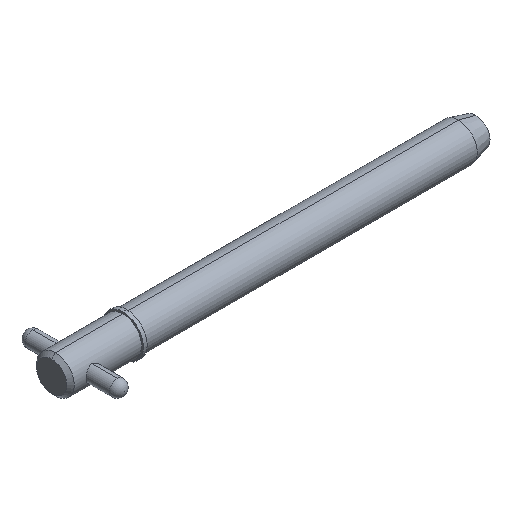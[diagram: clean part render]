
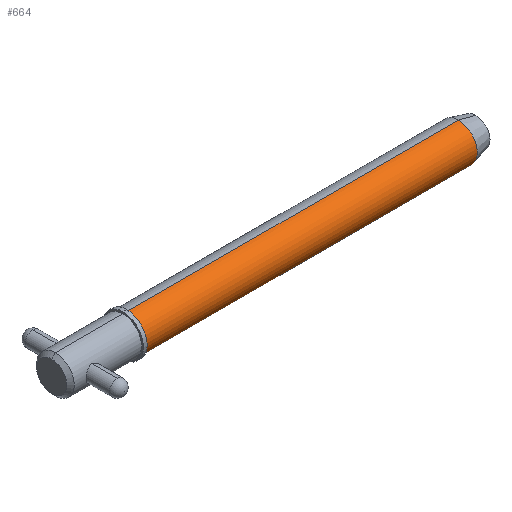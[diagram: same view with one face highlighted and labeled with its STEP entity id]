
A CAD part, isometric view. The second image highlights one B-rep face of the part: STEP entity #664.
In plain terms, the highlighted cylindrical face has radius 4.765 mm (diameter 9.53 mm), a partial arc.
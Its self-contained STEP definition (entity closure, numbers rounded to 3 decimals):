
#1 = AXIS2_PLACEMENT_3D ( 'NONE', #614, #292, #217 ) ;
#21 = AXIS2_PLACEMENT_3D ( 'NONE', #272, #674, #201 ) ;
#32 = ORIENTED_EDGE ( 'NONE', *, *, #38, .F. ) ;
#38 = EDGE_CURVE ( 'NONE', #820, #567, #111, .T. ) ;
#90 = VECTOR ( 'NONE', #661, 1000. ) ;
#108 = VECTOR ( 'NONE', #442, 1000. ) ;
#109 = CARTESIAN_POINT ( 'NONE',  ( 103.504, 0., -4.765 ) ) ;
#111 = LINE ( 'NONE', #746, #90 ) ;
#172 = ORIENTED_EDGE ( 'NONE', *, *, #224, .F. ) ;
#201 = DIRECTION ( 'NONE',  ( 0., 0., -1. ) ) ;
#217 = DIRECTION ( 'NONE',  ( 0., 0., -1. ) ) ;
#219 = CIRCLE ( 'NONE', #499, 4.765 ) ;
#220 = DIRECTION ( 'NONE',  ( 0., 0., -1. ) ) ;
#224 = EDGE_CURVE ( 'NONE', #567, #458, #219, .T. ) ;
#230 = CARTESIAN_POINT ( 'NONE',  ( 19.05, 0., -4.765 ) ) ;
#272 = CARTESIAN_POINT ( 'NONE',  ( 19.05, 0., 0. ) ) ;
#292 = DIRECTION ( 'NONE',  ( 1., 0., 0. ) ) ;
#294 = DIRECTION ( 'NONE',  ( 1., 0., 0. ) ) ;
#302 = ORIENTED_EDGE ( 'NONE', *, *, #1030, .T. ) ;
#311 = VERTEX_POINT ( 'NONE', #230 ) ;
#442 = DIRECTION ( 'NONE',  ( 1., 0., 0. ) ) ;
#454 = FACE_OUTER_BOUND ( 'NONE', #477, .T. ) ;
#458 = VERTEX_POINT ( 'NONE', #109 ) ;
#477 = EDGE_LOOP ( 'NONE', ( #32, #302, #794, #172 ) ) ;
#499 = AXIS2_PLACEMENT_3D ( 'NONE', #754, #294, #220 ) ;
#567 = VERTEX_POINT ( 'NONE', #752 ) ;
#586 = CARTESIAN_POINT ( 'NONE',  ( 19.05, 0., 4.765 ) ) ;
#614 = CARTESIAN_POINT ( 'NONE',  ( 0., 0., 0. ) ) ;
#661 = DIRECTION ( 'NONE',  ( 1., 0., 0. ) ) ;
#664 = ADVANCED_FACE ( 'NONE', ( #454 ), #777, .T. ) ;
#674 = DIRECTION ( 'NONE',  ( 1., 0., 0. ) ) ;
#700 = CIRCLE ( 'NONE', #21, 4.765 ) ;
#746 = CARTESIAN_POINT ( 'NONE',  ( 0., 0., 4.765 ) ) ;
#752 = CARTESIAN_POINT ( 'NONE',  ( 103.504, 0., 4.765 ) ) ;
#754 = CARTESIAN_POINT ( 'NONE',  ( 103.504, 0., 0. ) ) ;
#768 = LINE ( 'NONE', #849, #108 ) ;
#777 = CYLINDRICAL_SURFACE ( 'NONE', #1, 4.765 ) ;
#794 = ORIENTED_EDGE ( 'NONE', *, *, #852, .T. ) ;
#820 = VERTEX_POINT ( 'NONE', #586 ) ;
#849 = CARTESIAN_POINT ( 'NONE',  ( 0., 0., -4.765 ) ) ;
#852 = EDGE_CURVE ( 'NONE', #311, #458, #768, .T. ) ;
#1030 = EDGE_CURVE ( 'NONE', #820, #311, #700, .T. ) ;
